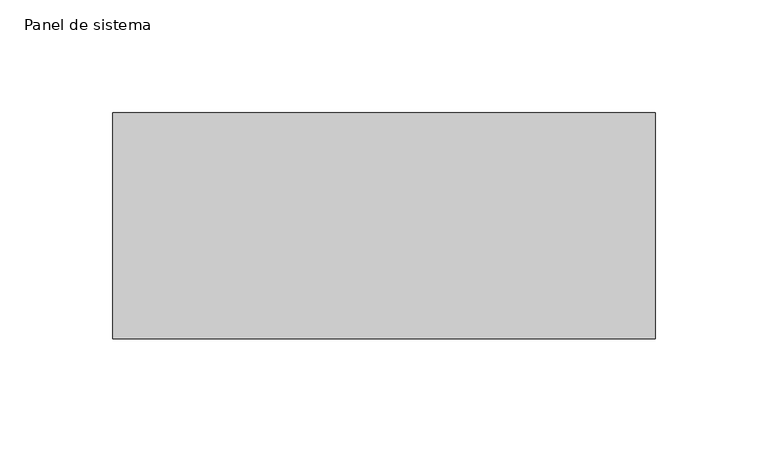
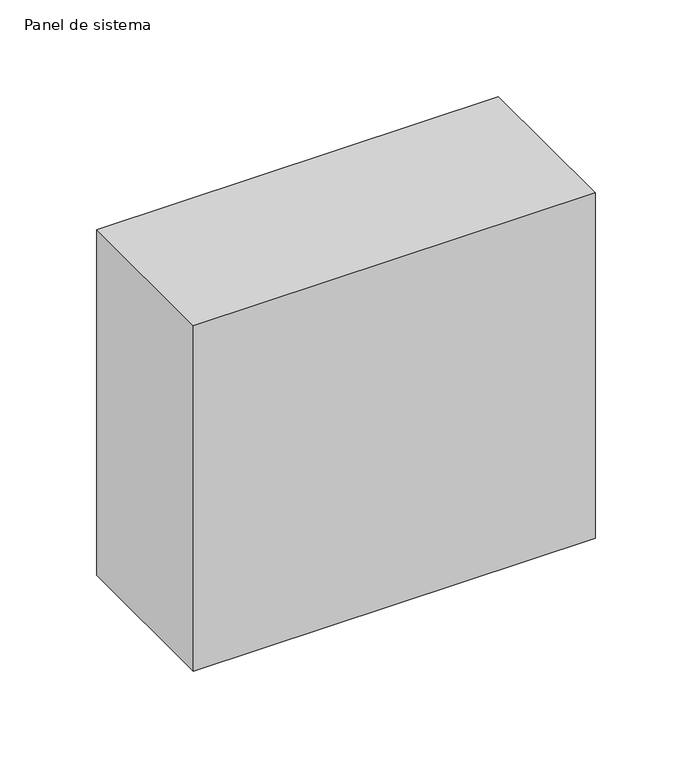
"""IFC4 building model written with IfcOpenShell, lengths in millimetres: plate geometry, Panel de sistema : PAVES."""

from ifc_helpers import new_model, si_unit, origin, origin_with_axes, place, context, project, spatial, polyline, outline, extrude, source, transform, mapped, element, save


def panel_de_sistema_3b4a4584(model_context):
    return source(origin(), model_context, "Body", "SweptSolid", [
        extrude(outline(polyline([(120.0, -50.0), (-120.0, -50.0), (-120.0, 50.0), (120.0, 50.0), (120.0, -50.0)])), origin_with_axes(), (0.0, 0.0, 1.0), 218.3333333),
    ])


if __name__ == "__main__":
    model = new_model("IFC4")
    model_context = context("Model", 3, world=origin())
    ifc_project = project(units=[si_unit("LENGTHUNIT", "METRE", prefix="MILLI")], contexts=[model_context])
    site = spatial("IfcSite", under=ifc_project)
    building = spatial("IfcBuilding", under=site)
    placement = place(None, origin())
    panel_de_sistema_shape = panel_de_sistema_3b4a4584(model_context)
    element("IfcPlate", 1, ObjectType="Panel de sistema : PAVES", at=placement, inside=building, context=model_context, shape_type="MappedRepresentation", body=[
        mapped(panel_de_sistema_shape, transform((0.0, 0.0, 0.0), x_axis=(1.0, 0.0, 0.0), y_axis=(0.0, 1.0, 0.0), z_axis=(0.0, 0.0, 1.0))),
    ])
    save(model, "model.ifc")
